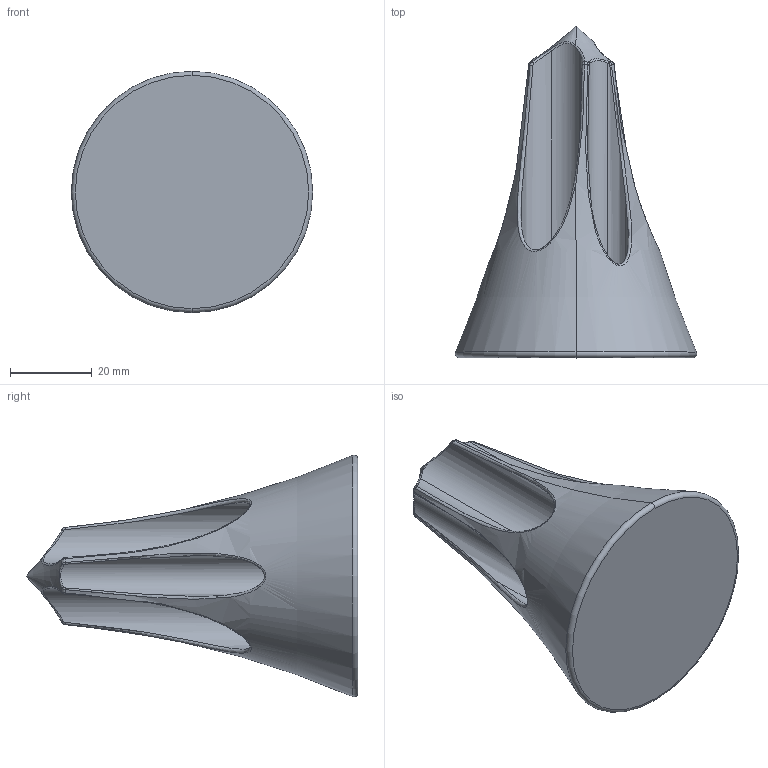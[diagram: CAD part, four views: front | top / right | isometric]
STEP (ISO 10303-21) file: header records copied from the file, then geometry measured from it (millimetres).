
FILE_DESCRIPTION (( 'STEP AP203' ), '1' );
FILE_NAME ('Pen holder 2.STEP', '2025-02-21T15:49:38', ( '' ), ( '' ), 'SwSTEP 2.0', 'SolidWorks 2024', '' );
FILE_SCHEMA (( 'CONFIG_CONTROL_DESIGN' ));
Length unit declared in the file: millimetre
Products named in the file (1): Pen holder 2
Bounding box: 58.94 x 81 x 58.94 mm (x, y, z)
Volume: 47112.3 mm3; surface area: 20187.5 mm2
Topology: 1 solids, 1 shells, 67 faces, 160 edges, 93 vertices
Faces by surface type: torus 24, bspline 24, cylinder 12, plane 7
Entity records: 4833 total; most frequent: CARTESIAN_POINT 3381, ORIENTED_EDGE 316, DIRECTION 264, EDGE_CURVE 158, AXIS2_PLACEMENT_3D 126, VERTEX_POINT 93, CIRCLE 82, FACE_OUTER_BOUND 67
